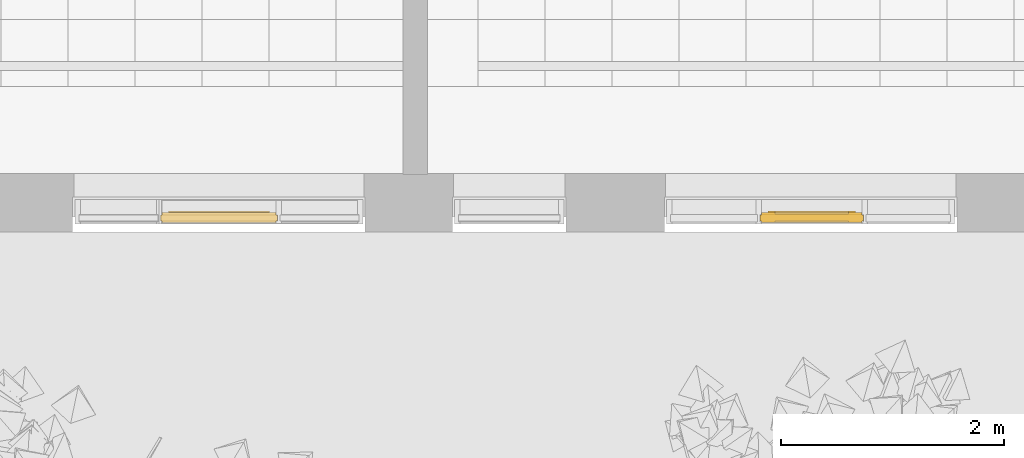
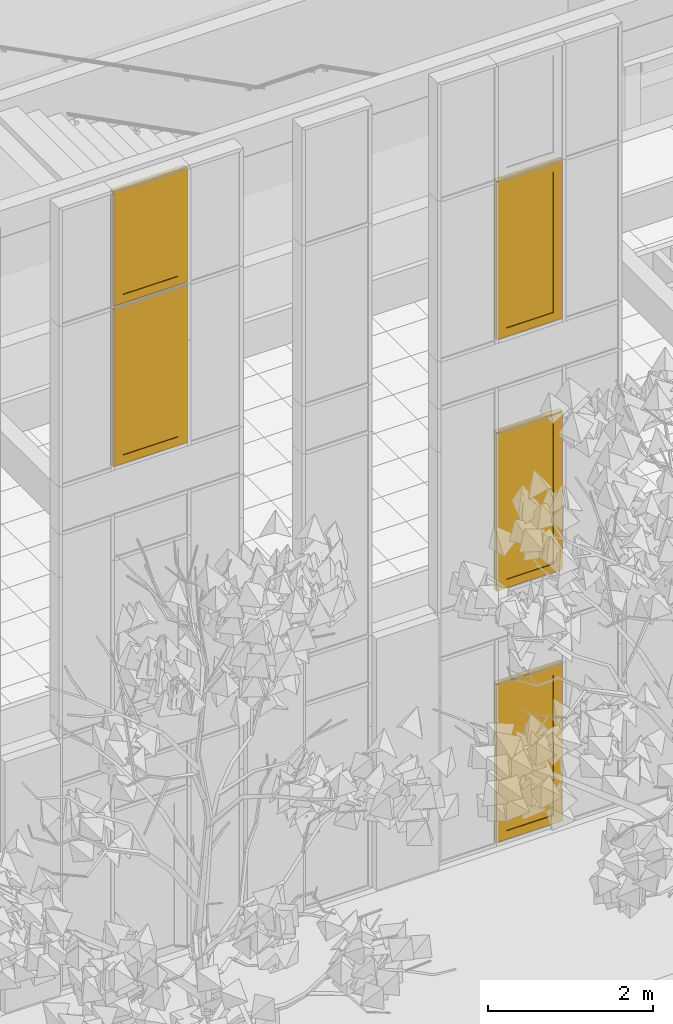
# One storey, part 149 of 246: 5 windows, 2 elements without a shape of their own.
"""IFC2X3 building model written with IfcOpenShell, lengths in millimetres."""

from ifc_helpers import new_model, entity, si_unit, converted_unit, derived_unit, money_unit, direction, frame, origin_with_axes, place, context, subcontext, project, spatial, open_shell, faceted_brep, surface_model, source, transform, mapped, material, material_list, type_object, element, aggregate, save


model = new_model("IFC2X3")

# Units and contexts
model_context = context("Model", 3, precision=0.01, world=origin_with_axes(), true_north=direction((0.0, 1.0)))
body_context = subcontext(model_context, "Body", "Model", "MODEL_VIEW")
ifc_project = project(units=[si_unit("LENGTHUNIT", "METRE", prefix="MILLI"), si_unit("AREAUNIT", "SQUARE_METRE"), si_unit("VOLUMEUNIT", "CUBIC_METRE"), converted_unit("PLANEANGLEUNIT", "DEGREE", entity("IfcPlaneAngleMeasure", 0.0174532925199), si_unit("PLANEANGLEUNIT", "RADIAN"), dimensions=[0, 0, 0, 0, 0, 0, 0]), si_unit("SOLIDANGLEUNIT", "STERADIAN"), money_unit("EUR"), converted_unit("TIMEUNIT", "Year", entity("IfcTimeMeasure", 31556926.0), si_unit("TIMEUNIT", "SECOND"), dimensions=[0, 0, 1, 0, 0, 0, 0]), si_unit("MASSUNIT", "GRAM", prefix="KILO"), si_unit("THERMODYNAMICTEMPERATUREUNIT", "DEGREE_CELSIUS"), si_unit("LUMINOUSINTENSITYUNIT", "LUMEN"), si_unit("ENERGYUNIT", "JOULE", prefix="MEGA"), derived_unit("THERMALCONDUCTANCEUNIT", [(si_unit("POWERUNIT", "WATT"), 1), (si_unit("LENGTHUNIT", "METRE"), -1), (si_unit("THERMODYNAMICTEMPERATUREUNIT", "KELVIN"), -1)]), derived_unit("SPECIFICHEATCAPACITYUNIT", [(si_unit("ENERGYUNIT", "JOULE"), 1), (si_unit("MASSUNIT", "GRAM", prefix="KILO"), -1), (si_unit("THERMODYNAMICTEMPERATUREUNIT", "KELVIN"), -1)]), derived_unit("MASSDENSITYUNIT", [(si_unit("MASSUNIT", "GRAM", prefix="KILO"), 1), (si_unit("VOLUMEUNIT", "CUBIC_METRE"), -1)])], contexts=[model_context])

# Site, building, storey
site_placement = place(None, origin_with_axes())
site = spatial("IfcSite", under=ifc_project, at=site_placement, Name="L.Koidula tn 11b", CompositionType="ELEMENT")
building_placement = place(site_placement, origin_with_axes())
building = spatial("IfcBuilding", under=site, at=building_placement, Name="Rakvere Riigigümnaasium", CompositionType="ELEMENT")
storey_placement = place(building_placement, origin_with_axes())
storey = spatial("IfcBuildingStorey", under=building, at=storey_placement, Name="1.korrus 0,00", CompositionType="ELEMENT", Elevation=0.0)

# Curtain wall, windows
curtain_wall_type = type_object("IfcCurtainWallType", Name="Curtain Wall Type", PredefinedType="NOTDEFINED")
curtain_wall_1_placement = place(storey_placement, frame((78309.9973345, 5111.43278481, -1.61944633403e-05), z_axis=(0.0, 0.0, 1.0), x_axis=(1.0, 0.0, 0.0)))
curtain_wall_1 = element("IfcCurtainWall", 1, at=curtain_wall_1_placement, inside=storey, type_object=curtain_wall_type, Name="KLF-05-3A")
ifc_material_1 = material(Name="Alumiiniumprofiil (RAL 7021)")
ifc_material_2 = material(Name="Klaaspakett 3x ribikardinatega")
ifc_material_list = material_list([ifc_material_1, ifc_material_2])
window_style_1 = type_object("IfcWindowStyle", Name="926 x 2351 x 54", ConstructionType="NOTDEFINED", OperationType="NOTDEFINED", ParameterTakesPrecedence=False, Sizeable=False)
shared_shape_1 = source(origin_with_axes(), body_context, "Body", "SurfaceModel", [
    surface_model("IfcShellBasedSurfaceModel", [(24.9999850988, 24.9999850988, 38.0), (83.9999850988, 83.9999850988, 38.0), (866.000014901, 83.9999850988, 38.0), (925.000014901, 24.9999850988, 38.0)], [open_shell([[[0, 1, 2, 3]]])]),
    surface_model("IfcShellBasedSurfaceModel", [(925.000014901, 24.9999850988, 38.0), (866.000014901, 83.9999850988, 38.0), (866.000014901, 2291.0000149, 38.0), (925.000014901, 2350.0000149, 38.0)], [open_shell([[[0, 1, 2, 3]]])]),
    surface_model("IfcShellBasedSurfaceModel", [(24.9999850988, 2350.0000149, 38.0), (925.000014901, 2350.0000149, 38.0), (866.000014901, 2291.0000149, 38.0), (83.9999850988, 2291.0000149, 38.0)], [open_shell([[[0, 1, 2, 3]]])]),
    surface_model("IfcShellBasedSurfaceModel", [(24.9999850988, 24.9999850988, 38.0), (24.9999850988, 2350.0000149, 38.0), (83.9999850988, 2291.0000149, 38.0), (83.9999850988, 83.9999850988, 38.0)], [open_shell([[[0, 1, 2, 3]]])]),
    faceted_brep([(24.9999850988, 24.9999850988, -51.0), (925.000014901, 24.9999850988, -51.0), (925.000014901, 24.9999850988, 38.0), (24.9999850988, 24.9999850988, 38.0), (83.9999850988, 83.9999850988, -51.0), (866.000014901, 83.9999850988, -51.0), (866.000014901, 83.9999850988, 38.0), (83.9999850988, 83.9999850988, 38.0)], [[[0, 1, 2, 3]], [[0, 4, 5, 1]], [[1, 5, 6, 2]], [[3, 2, 6, 7]], [[4, 0, 3, 7]], [[5, 4, 7, 6]]]),
    faceted_brep([(925.000014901, 24.9999850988, -51.0), (925.000014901, 2350.0000149, -51.0), (925.000014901, 2350.0000149, 38.0), (925.000014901, 24.9999850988, 38.0), (866.000014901, 83.9999850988, -51.0), (866.000014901, 2291.0000149, -51.0), (866.000014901, 2291.0000149, 38.0), (866.000014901, 83.9999850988, 38.0)], [[[0, 1, 2, 3]], [[0, 4, 5, 1]], [[1, 5, 6, 2]], [[3, 2, 6, 7]], [[4, 0, 3, 7]], [[5, 4, 7, 6]]]),
    faceted_brep([(24.9999850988, 2350.0000149, -51.0), (83.9999850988, 2291.0000149, -51.0), (83.9999850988, 2291.0000149, 38.0), (24.9999850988, 2350.0000149, 38.0), (925.000014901, 2350.0000149, -51.0), (866.000014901, 2291.0000149, -51.0), (866.000014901, 2291.0000149, 38.0), (925.000014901, 2350.0000149, 38.0)], [[[0, 1, 2, 3]], [[0, 4, 5, 1]], [[1, 5, 6, 2]], [[3, 2, 6, 7]], [[4, 0, 3, 7]], [[5, 4, 7, 6]]]),
    faceted_brep([(24.9999850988, 24.9999850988, -51.0), (83.9999850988, 83.9999850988, -51.0), (83.9999850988, 83.9999850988, 38.0), (24.9999850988, 24.9999850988, 38.0), (24.9999850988, 2350.0000149, -51.0), (83.9999850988, 2291.0000149, -51.0), (83.9999850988, 2291.0000149, 38.0), (24.9999850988, 2350.0000149, 38.0)], [[[0, 1, 2, 3]], [[0, 4, 5, 1]], [[1, 5, 6, 2]], [[3, 2, 6, 7]], [[4, 0, 3, 7]], [[5, 4, 7, 6]]]),
    faceted_brep([(11.9999985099, 11.9999985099, -27.0), (938.00000149, 11.9999985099, -27.0), (938.00000149, 11.9999985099, 27.0), (11.9999985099, 11.9999985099, 27.0), (24.9999850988, 24.9999850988, -27.0), (925.000014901, 24.9999850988, -27.0), (925.000014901, 24.9999850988, 27.0), (24.9999850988, 24.9999850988, 27.0)], [[[0, 1, 2, 3]], [[0, 4, 5, 1]], [[1, 5, 6, 2]], [[3, 2, 6, 7]], [[4, 0, 3, 7]], [[5, 4, 7, 6]]]),
    faceted_brep([(938.00000149, 11.9999985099, -27.0), (938.00000149, 2363.00000149, -27.0), (938.00000149, 2363.00000149, 27.0), (938.00000149, 11.9999985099, 27.0), (925.000014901, 24.9999850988, -27.0), (925.000014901, 2350.0000149, -27.0), (925.000014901, 2350.0000149, 27.0), (925.000014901, 24.9999850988, 27.0)], [[[0, 1, 2, 3]], [[0, 4, 5, 1]], [[1, 5, 6, 2]], [[3, 2, 6, 7]], [[4, 0, 3, 7]], [[5, 4, 7, 6]]]),
    faceted_brep([(938.00000149, 2363.00000149, -27.0), (11.9999985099, 2363.00000149, -27.0), (11.9999985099, 2363.00000149, 27.0), (938.00000149, 2363.00000149, 27.0), (925.000014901, 2350.0000149, -27.0), (24.9999850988, 2350.0000149, -27.0), (24.9999850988, 2350.0000149, 27.0), (925.000014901, 2350.0000149, 27.0)], [[[0, 1, 2, 3]], [[0, 4, 5, 1]], [[1, 5, 6, 2]], [[3, 2, 6, 7]], [[4, 0, 3, 7]], [[5, 4, 7, 6]]]),
    faceted_brep([(11.9999985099, 2363.00000149, -27.0), (11.9999985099, 11.9999985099, -27.0), (11.9999985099, 11.9999985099, 27.0), (11.9999985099, 2363.00000149, 27.0), (24.9999850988, 2350.0000149, -27.0), (24.9999850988, 24.9999850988, -27.0), (24.9999850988, 24.9999850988, 27.0), (24.9999850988, 2350.0000149, 27.0)], [[[0, 1, 2, 3]], [[0, 4, 5, 1]], [[1, 5, 6, 2]], [[3, 2, 6, 7]], [[4, 0, 3, 7]], [[5, 4, 7, 6]]]),
    faceted_brep([(146.999985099, 146.999985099, 38.0), (146.999985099, 146.999985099, -62.0), (146.999985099, 2228.0000149, -62.0), (146.999985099, 2228.0000149, 38.0), (83.9999850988, 83.9999850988, 38.0), (83.9999850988, 83.9999850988, -62.0), (83.9999850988, 2291.0000149, -62.0), (83.9999850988, 2291.0000149, 38.0)], [[[0, 1, 2, 3]], [[4, 5, 1, 0]], [[1, 5, 6, 2]], [[3, 2, 6, 7]], [[0, 3, 7, 4]], [[7, 6, 5, 4]]]),
    faceted_brep([(866.000014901, 83.9999850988, 38.0), (866.000014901, 83.9999850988, -62.0), (866.000014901, 2291.0000149, -62.0), (866.000014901, 2291.0000149, 38.0), (803.000014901, 146.999985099, 38.0), (803.000014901, 146.999985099, -62.0), (803.000014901, 2228.0000149, -62.0), (803.000014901, 2228.0000149, 38.0)], [[[0, 1, 2, 3]], [[4, 5, 1, 0]], [[1, 5, 6, 2]], [[3, 2, 6, 7]], [[0, 3, 7, 4]], [[7, 6, 5, 4]]]),
    faceted_brep([(866.000014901, 83.9999850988, 38.0), (866.000014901, 83.9999850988, -62.0), (803.000014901, 146.999985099, -62.0), (803.000014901, 146.999985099, 38.0), (83.9999850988, 83.9999850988, 38.0), (83.9999850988, 83.9999850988, -62.0), (146.999985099, 146.999985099, -62.0), (146.999985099, 146.999985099, 38.0)], [[[0, 1, 2, 3]], [[4, 5, 1, 0]], [[1, 5, 6, 2]], [[3, 2, 6, 7]], [[0, 3, 7, 4]], [[7, 6, 5, 4]]]),
    faceted_brep([(83.9999850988, 2291.0000149, 38.0), (83.9999850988, 2291.0000149, -62.0), (146.999985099, 2228.0000149, -62.0), (146.999985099, 2228.0000149, 38.0), (866.000014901, 2291.0000149, 38.0), (866.000014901, 2291.0000149, -62.0), (803.000014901, 2228.0000149, -62.0), (803.000014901, 2228.0000149, 38.0)], [[[0, 1, 2, 3]], [[4, 5, 1, 0]], [[1, 5, 6, 2]], [[3, 2, 6, 7]], [[0, 3, 7, 4]], [[7, 6, 5, 4]]]),
    faceted_brep([(146.999985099, 146.999985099, 27.0), (146.999985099, 146.999985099, -38.0), (803.000014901, 146.999985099, -38.0), (803.000014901, 146.999985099, 27.0), (146.999985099, 2228.0000149, 27.0), (146.999985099, 2228.0000149, -38.0), (803.000014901, 2228.0000149, -38.0), (803.000014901, 2228.0000149, 27.0)], [[[0, 1, 2, 3]], [[4, 5, 1, 0]], [[1, 5, 6, 2]], [[3, 2, 6, 7]], [[0, 3, 7, 4]], [[7, 6, 5, 4]]]),
])
window_1_placement = place(curtain_wall_1_placement, frame((0.0, 0.0, 4932.5), z_axis=(0.0, 0.0, 1.0), x_axis=(-0.999999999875, 1.58166009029e-05, 0.0)))
window_1 = element("IfcWindow", 2, at=window_1_placement, type_object=window_style_1, material=ifc_material_list, Name="KLF-05-A-2", ObjectType="WINDOW", context=body_context, shape_type="MappedRepresentation", body=[
    mapped(shared_shape_1, transform((475.0, 0.0, -1187.5), x_axis=(-1.0, 0.0, 0.0), y_axis=(0.0, 0.0, 1.0), z_axis=(0.0, 1.0, 0.0))),
])
window_2_placement = place(curtain_wall_1_placement, frame((0.0, 0.0, 8652.5), z_axis=(0.0, 0.0, 1.0), x_axis=(-0.999999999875, 1.58166009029e-05, 0.0)))
window_2 = element("IfcWindow", 3, at=window_2_placement, type_object=window_style_1, material=ifc_material_list, Name="KLF-05-A-2", ObjectType="WINDOW", context=body_context, shape_type="MappedRepresentation", body=[
    mapped(shared_shape_1, transform((475.0, 0.0, -1187.5), x_axis=(-1.0, 0.0, 0.0), y_axis=(0.0, 0.0, 1.0), z_axis=(0.0, 1.0, 0.0))),
])
shared_shape_2 = source(origin_with_axes(), body_context, "Body", "SurfaceModel", [
    surface_model("IfcShellBasedSurfaceModel", [(25.0, 50.0, 38.0), (84.0, 109.0, 38.0), (866.0, 109.0, 38.0), (925.0, 50.0, 38.0)], [open_shell([[[0, 1, 2, 3]]])]),
    surface_model("IfcShellBasedSurfaceModel", [(925.0, 50.0, 38.0), (866.0, 109.0, 38.0), (866.0, 2316.0, 38.0), (925.0, 2375.0, 38.0)], [open_shell([[[0, 1, 2, 3]]])]),
    surface_model("IfcShellBasedSurfaceModel", [(25.0, 2375.0, 38.0), (925.0, 2375.0, 38.0), (866.0, 2316.0, 38.0), (84.0, 2316.0, 38.0)], [open_shell([[[0, 1, 2, 3]]])]),
    surface_model("IfcShellBasedSurfaceModel", [(25.0, 50.0, 38.0), (25.0, 2375.0, 38.0), (84.0, 2316.0, 38.0), (84.0, 109.0, 38.0)], [open_shell([[[0, 1, 2, 3]]])]),
    faceted_brep([(25.0, 50.0, -51.0), (925.0, 50.0, -51.0), (925.0, 50.0, 38.0), (25.0, 50.0, 38.0), (84.0, 109.0, -51.0), (866.0, 109.0, -51.0), (866.0, 109.0, 38.0), (84.0, 109.0, 38.0)], [[[0, 1, 2, 3]], [[0, 4, 5, 1]], [[1, 5, 6, 2]], [[3, 2, 6, 7]], [[4, 0, 3, 7]], [[5, 4, 7, 6]]]),
    faceted_brep([(925.0, 50.0, -51.0), (925.0, 2375.0, -51.0), (925.0, 2375.0, 38.0), (925.0, 50.0, 38.0), (866.0, 109.0, -51.0), (866.0, 2316.0, -51.0), (866.0, 2316.0, 38.0), (866.0, 109.0, 38.0)], [[[0, 1, 2, 3]], [[0, 4, 5, 1]], [[1, 5, 6, 2]], [[3, 2, 6, 7]], [[4, 0, 3, 7]], [[5, 4, 7, 6]]]),
    faceted_brep([(25.0, 2375.0, -51.0), (84.0, 2316.0, -51.0), (84.0, 2316.0, 38.0), (25.0, 2375.0, 38.0), (925.0, 2375.0, -51.0), (866.0, 2316.0, -51.0), (866.0, 2316.0, 38.0), (925.0, 2375.0, 38.0)], [[[0, 1, 2, 3]], [[0, 4, 5, 1]], [[1, 5, 6, 2]], [[3, 2, 6, 7]], [[4, 0, 3, 7]], [[5, 4, 7, 6]]]),
    faceted_brep([(25.0, 50.0, -51.0), (84.0, 109.0, -51.0), (84.0, 109.0, 38.0), (25.0, 50.0, 38.0), (25.0, 2375.0, -51.0), (84.0, 2316.0, -51.0), (84.0, 2316.0, 38.0), (25.0, 2375.0, 38.0)], [[[0, 1, 2, 3]], [[0, 4, 5, 1]], [[1, 5, 6, 2]], [[3, 2, 6, 7]], [[4, 0, 3, 7]], [[5, 4, 7, 6]]]),
    faceted_brep([(12.0, 37.0, -27.0), (938.0, 37.0, -27.0), (938.0, 37.0, 27.0), (12.0, 37.0, 27.0), (25.0, 50.0, -27.0), (925.0, 50.0, -27.0), (925.0, 50.0, 27.0), (25.0, 50.0, 27.0)], [[[0, 1, 2, 3]], [[0, 4, 5, 1]], [[1, 5, 6, 2]], [[3, 2, 6, 7]], [[4, 0, 3, 7]], [[5, 4, 7, 6]]]),
    faceted_brep([(938.0, 37.0, -27.0), (938.0, 2388.0, -27.0), (938.0, 2388.0, 27.0), (938.0, 37.0, 27.0), (925.0, 50.0, -27.0), (925.0, 2375.0, -27.0), (925.0, 2375.0, 27.0), (925.0, 50.0, 27.0)], [[[0, 1, 2, 3]], [[0, 4, 5, 1]], [[1, 5, 6, 2]], [[3, 2, 6, 7]], [[4, 0, 3, 7]], [[5, 4, 7, 6]]]),
    faceted_brep([(938.0, 2388.0, -27.0), (12.0, 2388.0, -27.0), (12.0, 2388.0, 27.0), (938.0, 2388.0, 27.0), (925.0, 2375.0, -27.0), (25.0, 2375.0, -27.0), (25.0, 2375.0, 27.0), (925.0, 2375.0, 27.0)], [[[0, 1, 2, 3]], [[0, 4, 5, 1]], [[1, 5, 6, 2]], [[3, 2, 6, 7]], [[4, 0, 3, 7]], [[5, 4, 7, 6]]]),
    faceted_brep([(12.0, 2388.0, -27.0), (12.0, 37.0, -27.0), (12.0, 37.0, 27.0), (12.0, 2388.0, 27.0), (25.0, 2375.0, -27.0), (25.0, 50.0, -27.0), (25.0, 50.0, 27.0), (25.0, 2375.0, 27.0)], [[[0, 1, 2, 3]], [[0, 4, 5, 1]], [[1, 5, 6, 2]], [[3, 2, 6, 7]], [[4, 0, 3, 7]], [[5, 4, 7, 6]]]),
    faceted_brep([(147.0, 172.0, 38.0), (147.0, 172.0, -62.0), (147.0, 2253.0, -62.0), (147.0, 2253.0, 38.0), (84.0, 109.0, 38.0), (84.0, 109.0, -62.0), (84.0, 2316.0, -62.0), (84.0, 2316.0, 38.0)], [[[0, 1, 2, 3]], [[4, 5, 1, 0]], [[1, 5, 6, 2]], [[3, 2, 6, 7]], [[0, 3, 7, 4]], [[7, 6, 5, 4]]]),
    faceted_brep([(866.0, 109.0, 38.0), (866.0, 109.0, -62.0), (866.0, 2316.0, -62.0), (866.0, 2316.0, 38.0), (803.0, 172.0, 38.0), (803.0, 172.0, -62.0), (803.0, 2253.0, -62.0), (803.0, 2253.0, 38.0)], [[[0, 1, 2, 3]], [[4, 5, 1, 0]], [[1, 5, 6, 2]], [[3, 2, 6, 7]], [[0, 3, 7, 4]], [[7, 6, 5, 4]]]),
    faceted_brep([(866.0, 109.0, 38.0), (866.0, 109.0, -62.0), (803.0, 172.0, -62.0), (803.0, 172.0, 38.0), (84.0, 109.0, 38.0), (84.0, 109.0, -62.0), (147.0, 172.0, -62.0), (147.0, 172.0, 38.0)], [[[0, 1, 2, 3]], [[4, 5, 1, 0]], [[1, 5, 6, 2]], [[3, 2, 6, 7]], [[0, 3, 7, 4]], [[7, 6, 5, 4]]]),
    faceted_brep([(84.0, 2316.0, 38.0), (84.0, 2316.0, -62.0), (147.0, 2253.0, -62.0), (147.0, 2253.0, 38.0), (866.0, 2316.0, 38.0), (866.0, 2316.0, -62.0), (803.0, 2253.0, -62.0), (803.0, 2253.0, 38.0)], [[[0, 1, 2, 3]], [[4, 5, 1, 0]], [[1, 5, 6, 2]], [[3, 2, 6, 7]], [[0, 3, 7, 4]], [[7, 6, 5, 4]]]),
    faceted_brep([(147.0, 172.0, 27.0), (147.0, 172.0, -38.0), (803.0, 172.0, -38.0), (803.0, 172.0, 27.0), (147.0, 2253.0, 27.0), (147.0, 2253.0, -38.0), (803.0, 2253.0, -38.0), (803.0, 2253.0, 27.0)], [[[0, 1, 2, 3]], [[4, 5, 1, 0]], [[1, 5, 6, 2]], [[3, 2, 6, 7]], [[0, 3, 7, 4]], [[7, 6, 5, 4]]]),
])
window_3_placement = place(curtain_wall_1_placement, frame((0.0, 0.0, 1200.0), z_axis=(0.0, 0.0, 1.0), x_axis=(-0.999999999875, 1.58166009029e-05, 0.0)))
window_3 = element("IfcWindow", 4, at=window_3_placement, type_object=window_style_1, material=ifc_material_list, Name="KLF-05-A-2", ObjectType="WINDOW", context=body_context, shape_type="MappedRepresentation", body=[
    mapped(shared_shape_2, transform((475.0, 0.0, -1200.0), x_axis=(-1.0, 0.0, 0.0), y_axis=(0.0, 0.0, 1.0), z_axis=(0.0, 1.0, 0.0))),
])
aggregate(curtain_wall_1, [window_3, window_1, window_2])

curtain_wall_2_placement = place(storey_placement, frame((72896.908541, 5111.45334637, -8.09717227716e-06), z_axis=(0.0, 0.0, 1.0), x_axis=(1.0, 0.0, 0.0)))
curtain_wall_2 = element("IfcCurtainWall", 5, at=curtain_wall_2_placement, inside=storey, type_object=curtain_wall_type, Name="KLF-05-3B")
window_style_2 = type_object("IfcWindowStyle", Name="1046 x 2351 x 54", ConstructionType="NOTDEFINED", OperationType="NOTDEFINED", ParameterTakesPrecedence=False, Sizeable=False)
shared_shape_3 = source(origin_with_axes(), body_context, "Body", "SurfaceModel", [
    surface_model("IfcShellBasedSurfaceModel", [(24.9999850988, 24.9999850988, 38.0), (83.9999850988, 83.9999850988, 38.0), (986.0, 83.9999850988, 38.0), (1045.0, 24.9999850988, 38.0)], [open_shell([[[0, 1, 2, 3]]])]),
    surface_model("IfcShellBasedSurfaceModel", [(1045.0, 24.9999850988, 38.0), (986.0, 83.9999850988, 38.0), (986.0, 2291.0000149, 38.0), (1045.0, 2350.0000149, 38.0)], [open_shell([[[0, 1, 2, 3]]])]),
    surface_model("IfcShellBasedSurfaceModel", [(24.9999850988, 2350.0000149, 38.0), (1045.0, 2350.0000149, 38.0), (986.0, 2291.0000149, 38.0), (83.9999850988, 2291.0000149, 38.0)], [open_shell([[[0, 1, 2, 3]]])]),
    surface_model("IfcShellBasedSurfaceModel", [(24.9999850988, 24.9999850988, 38.0), (24.9999850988, 2350.0000149, 38.0), (83.9999850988, 2291.0000149, 38.0), (83.9999850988, 83.9999850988, 38.0)], [open_shell([[[0, 1, 2, 3]]])]),
    faceted_brep([(24.9999850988, 24.9999850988, -51.0), (1045.0, 24.9999850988, -51.0), (1045.0, 24.9999850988, 38.0), (24.9999850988, 24.9999850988, 38.0), (83.9999850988, 83.9999850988, -51.0), (986.0, 83.9999850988, -51.0), (986.0, 83.9999850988, 38.0), (83.9999850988, 83.9999850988, 38.0)], [[[0, 1, 2, 3]], [[0, 4, 5, 1]], [[1, 5, 6, 2]], [[3, 2, 6, 7]], [[4, 0, 3, 7]], [[5, 4, 7, 6]]]),
    faceted_brep([(1045.0, 24.9999850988, -51.0), (1045.0, 2350.0000149, -51.0), (1045.0, 2350.0000149, 38.0), (1045.0, 24.9999850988, 38.0), (986.0, 83.9999850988, -51.0), (986.0, 2291.0000149, -51.0), (986.0, 2291.0000149, 38.0), (986.0, 83.9999850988, 38.0)], [[[0, 1, 2, 3]], [[0, 4, 5, 1]], [[1, 5, 6, 2]], [[3, 2, 6, 7]], [[4, 0, 3, 7]], [[5, 4, 7, 6]]]),
    faceted_brep([(24.9999850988, 2350.0000149, -51.0), (83.9999850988, 2291.0000149, -51.0), (83.9999850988, 2291.0000149, 38.0), (24.9999850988, 2350.0000149, 38.0), (1045.0, 2350.0000149, -51.0), (986.0, 2291.0000149, -51.0), (986.0, 2291.0000149, 38.0), (1045.0, 2350.0000149, 38.0)], [[[0, 1, 2, 3]], [[0, 4, 5, 1]], [[1, 5, 6, 2]], [[3, 2, 6, 7]], [[4, 0, 3, 7]], [[5, 4, 7, 6]]]),
    faceted_brep([(24.9999850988, 24.9999850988, -51.0), (83.9999850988, 83.9999850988, -51.0), (83.9999850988, 83.9999850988, 38.0), (24.9999850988, 24.9999850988, 38.0), (24.9999850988, 2350.0000149, -51.0), (83.9999850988, 2291.0000149, -51.0), (83.9999850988, 2291.0000149, 38.0), (24.9999850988, 2350.0000149, 38.0)], [[[0, 1, 2, 3]], [[0, 4, 5, 1]], [[1, 5, 6, 2]], [[3, 2, 6, 7]], [[4, 0, 3, 7]], [[5, 4, 7, 6]]]),
    faceted_brep([(11.9999985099, 11.9999985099, -27.0), (1057.99998659, 11.9999985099, -27.0), (1057.99998659, 11.9999985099, 27.0), (11.9999985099, 11.9999985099, 27.0), (24.9999850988, 24.9999850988, -27.0), (1045.0, 24.9999850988, -27.0), (1045.0, 24.9999850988, 27.0), (24.9999850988, 24.9999850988, 27.0)], [[[0, 1, 2, 3]], [[0, 4, 5, 1]], [[1, 5, 6, 2]], [[3, 2, 6, 7]], [[4, 0, 3, 7]], [[5, 4, 7, 6]]]),
    faceted_brep([(1057.99998659, 11.9999985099, -27.0), (1057.99998659, 2363.00000149, -27.0), (1057.99998659, 2363.00000149, 27.0), (1057.99998659, 11.9999985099, 27.0), (1045.0, 24.9999850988, -27.0), (1045.0, 2350.0000149, -27.0), (1045.0, 2350.0000149, 27.0), (1045.0, 24.9999850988, 27.0)], [[[0, 1, 2, 3]], [[0, 4, 5, 1]], [[1, 5, 6, 2]], [[3, 2, 6, 7]], [[4, 0, 3, 7]], [[5, 4, 7, 6]]]),
    faceted_brep([(1057.99998659, 2363.00000149, -27.0), (11.9999985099, 2363.00000149, -27.0), (11.9999985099, 2363.00000149, 27.0), (1057.99998659, 2363.00000149, 27.0), (1045.0, 2350.0000149, -27.0), (24.9999850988, 2350.0000149, -27.0), (24.9999850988, 2350.0000149, 27.0), (1045.0, 2350.0000149, 27.0)], [[[0, 1, 2, 3]], [[0, 4, 5, 1]], [[1, 5, 6, 2]], [[3, 2, 6, 7]], [[4, 0, 3, 7]], [[5, 4, 7, 6]]]),
    faceted_brep([(11.9999985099, 2363.00000149, -27.0), (11.9999985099, 11.9999985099, -27.0), (11.9999985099, 11.9999985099, 27.0), (11.9999985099, 2363.00000149, 27.0), (24.9999850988, 2350.0000149, -27.0), (24.9999850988, 24.9999850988, -27.0), (24.9999850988, 24.9999850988, 27.0), (24.9999850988, 2350.0000149, 27.0)], [[[0, 1, 2, 3]], [[0, 4, 5, 1]], [[1, 5, 6, 2]], [[3, 2, 6, 7]], [[4, 0, 3, 7]], [[5, 4, 7, 6]]]),
    faceted_brep([(146.999985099, 146.999985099, 38.0), (146.999985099, 146.999985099, -62.0), (146.999985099, 2228.0000149, -62.0), (146.999985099, 2228.0000149, 38.0), (83.9999850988, 83.9999850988, 38.0), (83.9999850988, 83.9999850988, -62.0), (83.9999850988, 2291.0000149, -62.0), (83.9999850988, 2291.0000149, 38.0)], [[[0, 1, 2, 3]], [[4, 5, 1, 0]], [[1, 5, 6, 2]], [[3, 2, 6, 7]], [[0, 3, 7, 4]], [[7, 6, 5, 4]]]),
    faceted_brep([(986.0, 83.9999850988, 38.0), (986.0, 83.9999850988, -62.0), (986.0, 2291.0000149, -62.0), (986.0, 2291.0000149, 38.0), (923.0, 146.999985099, 38.0), (923.0, 146.999985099, -62.0), (923.0, 2228.0000149, -62.0), (923.0, 2228.0000149, 38.0)], [[[0, 1, 2, 3]], [[4, 5, 1, 0]], [[1, 5, 6, 2]], [[3, 2, 6, 7]], [[0, 3, 7, 4]], [[7, 6, 5, 4]]]),
    faceted_brep([(986.0, 83.9999850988, 38.0), (986.0, 83.9999850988, -62.0), (923.0, 146.999985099, -62.0), (923.0, 146.999985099, 38.0), (83.9999850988, 83.9999850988, 38.0), (83.9999850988, 83.9999850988, -62.0), (146.999985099, 146.999985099, -62.0), (146.999985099, 146.999985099, 38.0)], [[[0, 1, 2, 3]], [[4, 5, 1, 0]], [[1, 5, 6, 2]], [[3, 2, 6, 7]], [[0, 3, 7, 4]], [[7, 6, 5, 4]]]),
    faceted_brep([(83.9999850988, 2291.0000149, 38.0), (83.9999850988, 2291.0000149, -62.0), (146.999985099, 2228.0000149, -62.0), (146.999985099, 2228.0000149, 38.0), (986.0, 2291.0000149, 38.0), (986.0, 2291.0000149, -62.0), (923.0, 2228.0000149, -62.0), (923.0, 2228.0000149, 38.0)], [[[0, 1, 2, 3]], [[4, 5, 1, 0]], [[1, 5, 6, 2]], [[3, 2, 6, 7]], [[0, 3, 7, 4]], [[7, 6, 5, 4]]]),
    faceted_brep([(146.999985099, 146.999985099, 27.0), (146.999985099, 146.999985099, 11.0), (923.0, 146.999985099, 11.0), (923.0, 146.999985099, 27.0), (146.999985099, 2228.0000149, 27.0), (146.999985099, 2228.0000149, 11.0), (923.0, 2228.0000149, 11.0), (923.0, 2228.0000149, 27.0)], [[[0, 1, 2, 3]], [[4, 5, 1, 0]], [[1, 5, 6, 2]], [[3, 2, 6, 7]], [[0, 3, 7, 4]], [[7, 6, 5, 4]]]),
])
window_4_placement = place(curtain_wall_2_placement, frame((106.348582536, 0.0, 8512.5), z_axis=(0.0, 0.0, 1.0), x_axis=(-1.0, 0.0, 0.0)))
window_4 = element("IfcWindow", 6, at=window_4_placement, type_object=window_style_2, material=ifc_material_list, Name="KLF-05-A-1", ObjectType="WINDOW", context=body_context, shape_type="MappedRepresentation", body=[
    mapped(shared_shape_3, transform((538.257211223, 0.0, -1047.5), x_axis=(-1.0, 0.0, 0.0), y_axis=(0.0, 0.0, 1.0), z_axis=(0.0, 1.0, 0.0))),
])
window_style_3 = type_object("IfcWindowStyle", Name="1046 x 1701 x 54", ConstructionType="NOTDEFINED", OperationType="NOTDEFINED", ParameterTakesPrecedence=False, Sizeable=False)
shared_shape_4 = source(origin_with_axes(), body_context, "Body", "SurfaceModel", [
    surface_model("IfcShellBasedSurfaceModel", [(24.9999968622, 24.9999968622, 38.0), (83.9999968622, 83.9999968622, 38.0), (986.000009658, 83.9999968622, 38.0), (1045.00000966, 24.9999968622, 38.0)], [open_shell([[[0, 1, 2, 3]]])]),
    surface_model("IfcShellBasedSurfaceModel", [(1045.00000966, 24.9999968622, 38.0), (986.000009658, 83.9999968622, 38.0), (986.000009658, 1641.0000474, 38.0), (1045.00000966, 1700.0000474, 38.0)], [open_shell([[[0, 1, 2, 3]]])]),
    surface_model("IfcShellBasedSurfaceModel", [(24.9999968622, 1700.0000474, 38.0), (1045.00000966, 1700.0000474, 38.0), (986.000009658, 1641.0000474, 38.0), (83.9999968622, 1641.0000474, 38.0)], [open_shell([[[0, 1, 2, 3]]])]),
    surface_model("IfcShellBasedSurfaceModel", [(24.9999968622, 24.9999968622, 38.0), (24.9999968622, 1700.0000474, 38.0), (83.9999968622, 1641.0000474, 38.0), (83.9999968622, 83.9999968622, 38.0)], [open_shell([[[0, 1, 2, 3]]])]),
    faceted_brep([(24.9999968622, 24.9999968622, -51.0), (1045.00000966, 24.9999968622, -51.0), (1045.00000966, 24.9999968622, 38.0), (24.9999968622, 24.9999968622, 38.0), (83.9999968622, 83.9999968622, -51.0), (986.000009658, 83.9999968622, -51.0), (986.000009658, 83.9999968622, 38.0), (83.9999968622, 83.9999968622, 38.0)], [[[0, 1, 2, 3]], [[0, 4, 5, 1]], [[1, 5, 6, 2]], [[3, 2, 6, 7]], [[4, 0, 3, 7]], [[5, 4, 7, 6]]]),
    faceted_brep([(1045.00000966, 24.9999968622, -51.0), (1045.00000966, 1700.0000474, -51.0), (1045.00000966, 1700.0000474, 38.0), (1045.00000966, 24.9999968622, 38.0), (986.000009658, 83.9999968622, -51.0), (986.000009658, 1641.0000474, -51.0), (986.000009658, 1641.0000474, 38.0), (986.000009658, 83.9999968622, 38.0)], [[[0, 1, 2, 3]], [[0, 4, 5, 1]], [[1, 5, 6, 2]], [[3, 2, 6, 7]], [[4, 0, 3, 7]], [[5, 4, 7, 6]]]),
    faceted_brep([(24.9999968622, 1700.0000474, -51.0), (83.9999968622, 1641.0000474, -51.0), (83.9999968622, 1641.0000474, 38.0), (24.9999968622, 1700.0000474, 38.0), (1045.00000966, 1700.0000474, -51.0), (986.000009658, 1641.0000474, -51.0), (986.000009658, 1641.0000474, 38.0), (1045.00000966, 1700.0000474, 38.0)], [[[0, 1, 2, 3]], [[0, 4, 5, 1]], [[1, 5, 6, 2]], [[3, 2, 6, 7]], [[4, 0, 3, 7]], [[5, 4, 7, 6]]]),
    faceted_brep([(24.9999968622, 24.9999968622, -51.0), (83.9999968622, 83.9999968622, -51.0), (83.9999968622, 83.9999968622, 38.0), (24.9999968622, 24.9999968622, 38.0), (24.9999968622, 1700.0000474, -51.0), (83.9999968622, 1641.0000474, -51.0), (83.9999968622, 1641.0000474, 38.0), (24.9999968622, 1700.0000474, 38.0)], [[[0, 1, 2, 3]], [[0, 4, 5, 1]], [[1, 5, 6, 2]], [[3, 2, 6, 7]], [[4, 0, 3, 7]], [[5, 4, 7, 6]]]),
    faceted_brep([(12.0000099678, 12.0000099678, -27.0), (1057.99999655, 12.0000099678, -27.0), (1057.99999655, 12.0000099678, 27.0), (12.0000099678, 12.0000099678, 27.0), (24.9999968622, 24.9999968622, -27.0), (1045.00000966, 24.9999968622, -27.0), (1045.00000966, 24.9999968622, 27.0), (24.9999968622, 24.9999968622, 27.0)], [[[0, 1, 2, 3]], [[0, 4, 5, 1]], [[1, 5, 6, 2]], [[3, 2, 6, 7]], [[4, 0, 3, 7]], [[5, 4, 7, 6]]]),
    faceted_brep([(1057.99999655, 12.0000099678, -27.0), (1057.99999655, 1713.0000343, -27.0), (1057.99999655, 1713.0000343, 27.0), (1057.99999655, 12.0000099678, 27.0), (1045.00000966, 24.9999968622, -27.0), (1045.00000966, 1700.0000474, -27.0), (1045.00000966, 1700.0000474, 27.0), (1045.00000966, 24.9999968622, 27.0)], [[[0, 1, 2, 3]], [[0, 4, 5, 1]], [[1, 5, 6, 2]], [[3, 2, 6, 7]], [[4, 0, 3, 7]], [[5, 4, 7, 6]]]),
    faceted_brep([(1057.99999655, 1713.0000343, -27.0), (12.0000099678, 1713.0000343, -27.0), (12.0000099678, 1713.0000343, 27.0), (1057.99999655, 1713.0000343, 27.0), (1045.00000966, 1700.0000474, -27.0), (24.9999968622, 1700.0000474, -27.0), (24.9999968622, 1700.0000474, 27.0), (1045.00000966, 1700.0000474, 27.0)], [[[0, 1, 2, 3]], [[0, 4, 5, 1]], [[1, 5, 6, 2]], [[3, 2, 6, 7]], [[4, 0, 3, 7]], [[5, 4, 7, 6]]]),
    faceted_brep([(12.0000099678, 1713.0000343, -27.0), (12.0000099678, 12.0000099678, -27.0), (12.0000099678, 12.0000099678, 27.0), (12.0000099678, 1713.0000343, 27.0), (24.9999968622, 1700.0000474, -27.0), (24.9999968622, 24.9999968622, -27.0), (24.9999968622, 24.9999968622, 27.0), (24.9999968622, 1700.0000474, 27.0)], [[[0, 1, 2, 3]], [[0, 4, 5, 1]], [[1, 5, 6, 2]], [[3, 2, 6, 7]], [[4, 0, 3, 7]], [[5, 4, 7, 6]]]),
    faceted_brep([(146.999996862, 146.999996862, 38.0), (146.999996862, 146.999996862, -62.0), (146.999996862, 1578.0000474, -62.0), (146.999996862, 1578.0000474, 38.0), (83.9999968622, 83.9999968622, 38.0), (83.9999968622, 83.9999968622, -62.0), (83.9999968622, 1641.0000474, -62.0), (83.9999968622, 1641.0000474, 38.0)], [[[0, 1, 2, 3]], [[4, 5, 1, 0]], [[1, 5, 6, 2]], [[3, 2, 6, 7]], [[0, 3, 7, 4]], [[7, 6, 5, 4]]]),
    faceted_brep([(986.000009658, 83.9999968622, 38.0), (986.000009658, 83.9999968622, -62.0), (986.000009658, 1641.0000474, -62.0), (986.000009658, 1641.0000474, 38.0), (923.000009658, 146.999996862, 38.0), (923.000009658, 146.999996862, -62.0), (923.000009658, 1578.0000474, -62.0), (923.000009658, 1578.0000474, 38.0)], [[[0, 1, 2, 3]], [[4, 5, 1, 0]], [[1, 5, 6, 2]], [[3, 2, 6, 7]], [[0, 3, 7, 4]], [[7, 6, 5, 4]]]),
    faceted_brep([(986.000009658, 83.9999968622, 38.0), (986.000009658, 83.9999968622, -62.0), (923.000009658, 146.999996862, -62.0), (923.000009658, 146.999996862, 38.0), (83.9999968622, 83.9999968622, 38.0), (83.9999968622, 83.9999968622, -62.0), (146.999996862, 146.999996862, -62.0), (146.999996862, 146.999996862, 38.0)], [[[0, 1, 2, 3]], [[4, 5, 1, 0]], [[1, 5, 6, 2]], [[3, 2, 6, 7]], [[0, 3, 7, 4]], [[7, 6, 5, 4]]]),
    faceted_brep([(83.9999968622, 1641.0000474, 38.0), (83.9999968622, 1641.0000474, -62.0), (146.999996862, 1578.0000474, -62.0), (146.999996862, 1578.0000474, 38.0), (986.000009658, 1641.0000474, 38.0), (986.000009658, 1641.0000474, -62.0), (923.000009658, 1578.0000474, -62.0), (923.000009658, 1578.0000474, 38.0)], [[[0, 1, 2, 3]], [[4, 5, 1, 0]], [[1, 5, 6, 2]], [[3, 2, 6, 7]], [[0, 3, 7, 4]], [[7, 6, 5, 4]]]),
    faceted_brep([(146.999996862, 146.999996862, 27.0), (146.999996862, 146.999996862, 11.0), (923.000009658, 146.999996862, 11.0), (923.000009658, 146.999996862, 27.0), (146.999996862, 1578.0000474, 27.0), (146.999996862, 1578.0000474, 11.0), (923.000009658, 1578.0000474, 11.0), (923.000009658, 1578.0000474, 27.0)], [[[0, 1, 2, 3]], [[4, 5, 1, 0]], [[1, 5, 6, 2]], [[3, 2, 6, 7]], [[0, 3, 7, 4]], [[7, 6, 5, 4]]]),
])
window_5_placement = place(curtain_wall_2_placement, frame((103.091371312, 0.0, 10715.0000206), z_axis=(0.0, 0.0, 1.0), x_axis=(-1.0, 0.0, 0.0)))
window_5 = element("IfcWindow", 7, at=window_5_placement, type_object=window_style_3, material=ifc_material_list, Name="KLF-05-A-3", ObjectType="WINDOW", context=body_context, shape_type="MappedRepresentation", body=[
    mapped(shared_shape_4, transform((535.0, 0.0, -875.000020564), x_axis=(-1.0, 0.0, 0.0), y_axis=(0.0, 0.0, 1.0), z_axis=(0.0, 1.0, 0.0))),
])
aggregate(curtain_wall_2, [window_4, window_5])

save(model, "model.ifc")
